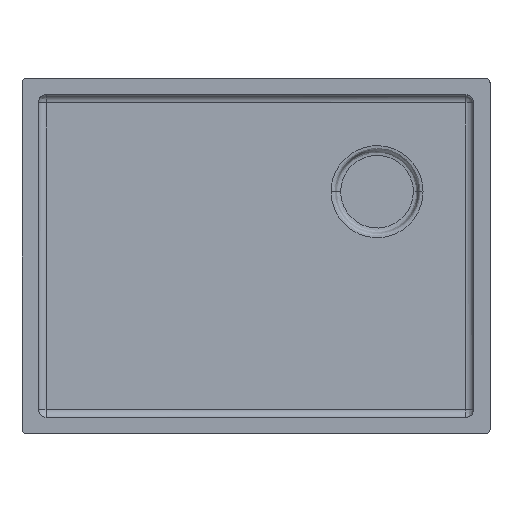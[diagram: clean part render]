
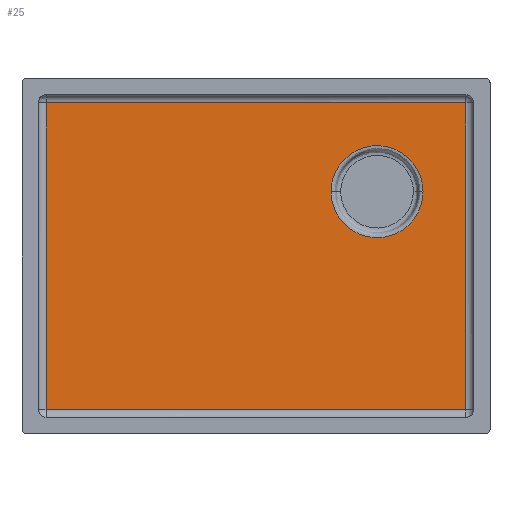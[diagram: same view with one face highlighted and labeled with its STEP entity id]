
A CAD part, top view. The second image highlights one B-rep face of the part: STEP entity #25.
In plain terms, the highlighted planar face has unit normal (-0.009, 0, -1).
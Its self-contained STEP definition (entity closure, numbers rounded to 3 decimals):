
#16=FACE_BOUND('',#89,.T.);
#25=ADVANCED_FACE('',(#56,#16),#461,.T.);
#56=FACE_OUTER_BOUND('',#88,.T.);
#88=EDGE_LOOP('',(#142,#143,#144,#145));
#89=EDGE_LOOP('',(#146,#147));
#142=ORIENTED_EDGE('',*,*,#270,.F.);
#143=ORIENTED_EDGE('',*,*,#271,.F.);
#144=ORIENTED_EDGE('',*,*,#269,.F.);
#145=ORIENTED_EDGE('',*,*,#268,.F.);
#146=ORIENTED_EDGE('',*,*,#250,.T.);
#147=ORIENTED_EDGE('',*,*,#316,.T.);
#250=EDGE_CURVE('',#393,#433,#354,.T.);
#268=EDGE_CURVE('',#412,#413,#369,.T.);
#269=EDGE_CURVE('',#413,#414,#370,.T.);
#270=EDGE_CURVE('',#415,#412,#371,.T.);
#271=EDGE_CURVE('',#414,#415,#372,.T.);
#316=EDGE_CURVE('',#433,#393,#391,.T.);
#354=B_SPLINE_CURVE_WITH_KNOTS('',3,(#1397,#1398,#1399,#1400,#1401,#1402,
#1403,#1404,#1405,#1406,#1407,#1408,#1409,#1410,#1411,#1412,#1413,#1414,
#1415,#1416,#1417,#1418,#1419,#1420,#1421,#1422,#1423,#1424,#1425,#1426,
#1427,#1428,#1429,#1430,#1431,#1432,#1433,#1434,#1435,#1436,#1437,#1438,
#1439),.UNSPECIFIED.,.F.,.F.,(4,1,2,2,2,2,2,2,2,2,2,2,2,2,2,2,2,2,2,2,2,
4),(-320.449,-315.442,-310.435,-300.421,
-295.414,-290.407,-280.393,-275.386,
-270.379,-260.365,-250.351,-240.337,
-230.323,-220.309,-210.295,-205.288,-200.281,
-190.267,-185.26,-180.253,-170.239,
-160.225),.UNSPECIFIED.);
#369=B_SPLINE_CURVE_WITH_KNOTS('',1,(#1492,#1493),.UNSPECIFIED.,.F.,.F.,
(2,2),(9.908,529.93),.UNSPECIFIED.);
#370=B_SPLINE_CURVE_WITH_KNOTS('',1,(#1494,#1495),.UNSPECIFIED.,.F.,.F.,
(2,2),(10.,390.),.UNSPECIFIED.);
#371=B_SPLINE_CURVE_WITH_KNOTS('',1,(#1496,#1497),.UNSPECIFIED.,.F.,.F.,
(2,2),(10.,390.),.UNSPECIFIED.);
#372=B_SPLINE_CURVE_WITH_KNOTS('',1,(#1498,#1499),.UNSPECIFIED.,.F.,.F.,
(2,2),(10.093,530.115),.UNSPECIFIED.);
#391=B_SPLINE_CURVE_WITH_KNOTS('',3,(#1657,#1658,#1659,#1660,#1661,#1662,
#1663,#1664,#1665,#1666,#1667,#1668,#1669,#1670,#1671,#1672,#1673,#1674,
#1675,#1676,#1677,#1678,#1679,#1680,#1681,#1682,#1683,#1684,#1685,#1686,
#1687,#1688,#1689,#1690,#1691,#1692,#1693,#1694,#1695,#1696,#1697,#1698,
#1699),.UNSPECIFIED.,.F.,.F.,(4,2,2,2,2,2,2,2,2,2,2,2,2,2,2,2,2,2,2,2,1,
4),(-160.225,-150.211,-140.197,-135.19,
-130.183,-120.168,-115.161,-110.154,-100.14,
-90.126,-80.112,-70.098,-60.084,
-50.07,-45.063,-40.056,-30.042,
-25.035,-20.028,-10.014,-5.007,
0.),.UNSPECIFIED.);
#393=VERTEX_POINT('',#1305);
#412=VERTEX_POINT('',#1324);
#413=VERTEX_POINT('',#1325);
#414=VERTEX_POINT('',#1326);
#415=VERTEX_POINT('',#1327);
#433=VERTEX_POINT('',#1345);
#461=PLANE('',#490);
#490=AXIS2_PLACEMENT_3D('',#834,#502,$);
#502=DIRECTION('',(-0.009,0.,-1.));
#834=CARTESIAN_POINT('',(-4552.18,-655.812,-185.));
#1305=CARTESIAN_POINT('',(-4075.18,-375.812,-189.417));
#1324=CARTESIAN_POINT('',(-4542.273,-645.812,-185.092));
#1325=CARTESIAN_POINT('',(-4022.273,-645.812,-189.907));
#1326=CARTESIAN_POINT('',(-4022.273,-265.812,-189.907));
#1327=CARTESIAN_POINT('',(-4542.273,-265.812,-185.092));
#1345=CARTESIAN_POINT('',(-4189.18,-375.812,-188.361));
#1397=CARTESIAN_POINT('',(-4075.18,-375.812,-189.417));
#1398=CARTESIAN_POINT('',(-4075.18,-373.947,-189.417));
#1399=CARTESIAN_POINT('',(-4075.363,-370.216,-189.415));
#1400=CARTESIAN_POINT('',(-4075.911,-366.521,-189.41));
#1401=CARTESIAN_POINT('',(-4077.003,-361.033,-189.4));
#1402=CARTESIAN_POINT('',(-4078.091,-357.445,-189.39));
#1403=CARTESIAN_POINT('',(-4080.233,-352.275,-189.37));
#1404=CARTESIAN_POINT('',(-4081.032,-350.587,-189.362));
#1405=CARTESIAN_POINT('',(-4082.79,-347.297,-189.346));
#1406=CARTESIAN_POINT('',(-4083.751,-345.695,-189.337));
#1407=CARTESIAN_POINT('',(-4086.859,-341.042,-189.309));
#1408=CARTESIAN_POINT('',(-4089.237,-338.144,-189.287));
#1409=CARTESIAN_POINT('',(-4093.194,-334.188,-189.25));
#1410=CARTESIAN_POINT('',(-4094.578,-332.933,-189.237));
#1411=CARTESIAN_POINT('',(-4097.462,-330.566,-189.21));
#1412=CARTESIAN_POINT('',(-4098.962,-329.454,-189.196));
#1413=CARTESIAN_POINT('',(-4103.615,-326.345,-189.153));
#1414=CARTESIAN_POINT('',(-4106.921,-324.578,-189.123));
#1415=CARTESIAN_POINT('',(-4113.814,-321.723,-189.059));
#1416=CARTESIAN_POINT('',(-4117.401,-320.635,-189.026));
#1417=CARTESIAN_POINT('',(-4124.719,-319.179,-188.958));
#1418=CARTESIAN_POINT('',(-4128.449,-318.812,-188.923));
#1419=CARTESIAN_POINT('',(-4135.911,-318.812,-188.854));
#1420=CARTESIAN_POINT('',(-4139.641,-319.179,-188.82));
#1421=CARTESIAN_POINT('',(-4146.959,-320.635,-188.752));
#1422=CARTESIAN_POINT('',(-4150.546,-321.723,-188.719));
#1423=CARTESIAN_POINT('',(-4157.439,-324.578,-188.655));
#1424=CARTESIAN_POINT('',(-4160.746,-326.345,-188.624));
#1425=CARTESIAN_POINT('',(-4165.398,-329.454,-188.581));
#1426=CARTESIAN_POINT('',(-4166.898,-330.567,-188.567));
#1427=CARTESIAN_POINT('',(-4169.782,-332.934,-188.541));
#1428=CARTESIAN_POINT('',(-4171.165,-334.187,-188.528));
#1429=CARTESIAN_POINT('',(-4175.123,-338.144,-188.491));
#1430=CARTESIAN_POINT('',(-4177.502,-341.042,-188.469));
#1431=CARTESIAN_POINT('',(-4180.609,-345.695,-188.44));
#1432=CARTESIAN_POINT('',(-4181.57,-347.297,-188.432));
#1433=CARTESIAN_POINT('',(-4183.328,-350.587,-188.415));
#1434=CARTESIAN_POINT('',(-4184.127,-352.275,-188.408));
#1435=CARTESIAN_POINT('',(-4186.269,-357.445,-188.388));
#1436=CARTESIAN_POINT('',(-4187.357,-361.033,-188.378));
#1437=CARTESIAN_POINT('',(-4188.812,-368.35,-188.365));
#1438=CARTESIAN_POINT('',(-4189.18,-372.081,-188.361));
#1439=CARTESIAN_POINT('',(-4189.18,-375.812,-188.361));
#1492=CARTESIAN_POINT('',(-4542.273,-645.812,-185.092));
#1493=CARTESIAN_POINT('',(-4022.273,-645.812,-189.907));
#1494=CARTESIAN_POINT('',(-4022.273,-645.812,-189.907));
#1495=CARTESIAN_POINT('',(-4022.273,-265.812,-189.907));
#1496=CARTESIAN_POINT('',(-4542.273,-265.812,-185.092));
#1497=CARTESIAN_POINT('',(-4542.273,-645.812,-185.092));
#1498=CARTESIAN_POINT('',(-4022.273,-265.812,-189.907));
#1499=CARTESIAN_POINT('',(-4542.273,-265.812,-185.092));
#1657=CARTESIAN_POINT('',(-4189.18,-375.812,-188.361));
#1658=CARTESIAN_POINT('',(-4189.18,-379.543,-188.361));
#1659=CARTESIAN_POINT('',(-4188.812,-383.273,-188.365));
#1660=CARTESIAN_POINT('',(-4187.357,-390.591,-188.378));
#1661=CARTESIAN_POINT('',(-4186.269,-394.179,-188.388));
#1662=CARTESIAN_POINT('',(-4184.127,-399.349,-188.408));
#1663=CARTESIAN_POINT('',(-4183.328,-401.037,-188.415));
#1664=CARTESIAN_POINT('',(-4181.57,-404.327,-188.432));
#1665=CARTESIAN_POINT('',(-4180.609,-405.929,-188.44));
#1666=CARTESIAN_POINT('',(-4177.501,-410.582,-188.469));
#1667=CARTESIAN_POINT('',(-4175.123,-413.48,-188.491));
#1668=CARTESIAN_POINT('',(-4171.166,-417.436,-188.528));
#1669=CARTESIAN_POINT('',(-4169.781,-418.691,-188.541));
#1670=CARTESIAN_POINT('',(-4166.898,-421.058,-188.567));
#1671=CARTESIAN_POINT('',(-4165.398,-422.169,-188.581));
#1672=CARTESIAN_POINT('',(-4160.745,-425.279,-188.624));
#1673=CARTESIAN_POINT('',(-4157.439,-427.046,-188.655));
#1674=CARTESIAN_POINT('',(-4150.546,-429.901,-188.719));
#1675=CARTESIAN_POINT('',(-4146.958,-430.989,-188.752));
#1676=CARTESIAN_POINT('',(-4139.641,-432.445,-188.82));
#1677=CARTESIAN_POINT('',(-4135.91,-432.812,-188.854));
#1678=CARTESIAN_POINT('',(-4128.449,-432.812,-188.923));
#1679=CARTESIAN_POINT('',(-4124.719,-432.445,-188.958));
#1680=CARTESIAN_POINT('',(-4117.401,-430.989,-189.026));
#1681=CARTESIAN_POINT('',(-4113.814,-429.901,-189.059));
#1682=CARTESIAN_POINT('',(-4106.921,-427.046,-189.123));
#1683=CARTESIAN_POINT('',(-4103.614,-425.278,-189.153));
#1684=CARTESIAN_POINT('',(-4098.962,-422.17,-189.196));
#1685=CARTESIAN_POINT('',(-4097.462,-421.057,-189.21));
#1686=CARTESIAN_POINT('',(-4094.578,-418.69,-189.237));
#1687=CARTESIAN_POINT('',(-4093.194,-417.436,-189.25));
#1688=CARTESIAN_POINT('',(-4089.237,-413.48,-189.287));
#1689=CARTESIAN_POINT('',(-4086.858,-410.582,-189.309));
#1690=CARTESIAN_POINT('',(-4083.75,-405.929,-189.337));
#1691=CARTESIAN_POINT('',(-4082.79,-404.327,-189.346));
#1692=CARTESIAN_POINT('',(-4081.031,-401.037,-189.362));
#1693=CARTESIAN_POINT('',(-4080.233,-399.349,-189.37));
#1694=CARTESIAN_POINT('',(-4078.091,-394.178,-189.39));
#1695=CARTESIAN_POINT('',(-4077.003,-390.591,-189.4));
#1696=CARTESIAN_POINT('',(-4075.911,-385.103,-189.41));
#1697=CARTESIAN_POINT('',(-4075.363,-381.408,-189.415));
#1698=CARTESIAN_POINT('',(-4075.18,-377.677,-189.417));
#1699=CARTESIAN_POINT('',(-4075.18,-375.812,-189.417));
